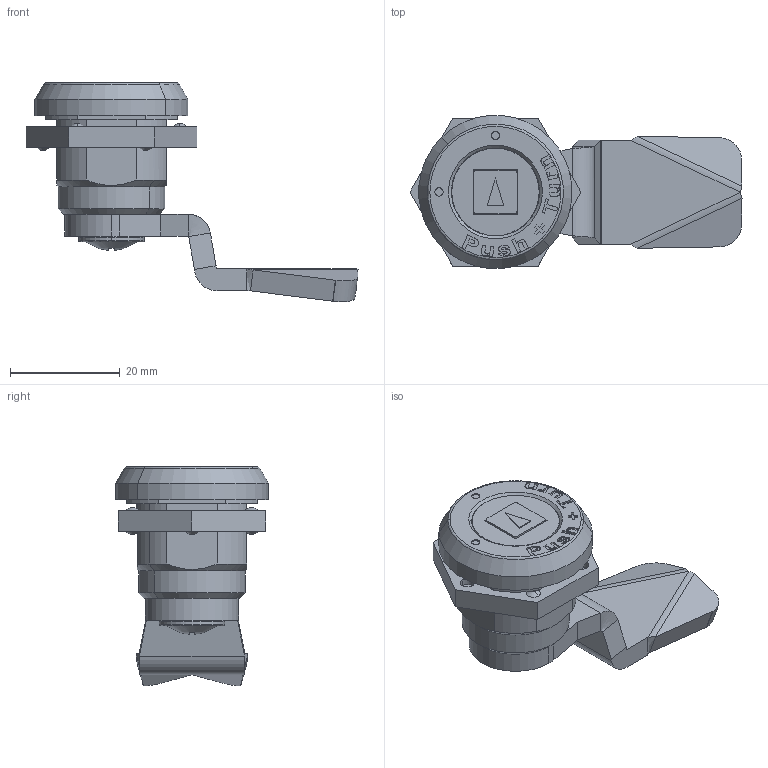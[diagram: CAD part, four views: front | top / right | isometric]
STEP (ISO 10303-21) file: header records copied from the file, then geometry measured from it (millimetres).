
FILE_DESCRIPTION (( 'STEP AP203' ), '1' );
FILE_NAME ('013.100.032.STEP', '2021-03-22T07:40:06', ( '' ), ( '' ), 'SwSTEP 2.0', 'SolidWorks 2018', '' );
FILE_SCHEMA (( 'CONFIG_CONTROL_DESIGN' ));
Length unit declared in the file: millimetre
Products named in the file (12): 1000-23; 1022-09; 1000-B87-03IA_ASM; ROH-NR_76; DIN1473_2X5; 1000-13_prt; 1000-111; 1000-485-03; 013.100.032; 1000-480; 1000-484-03; 2600-E02-25_EINGED
Assembly tree (11 placements, depth 3):
  013.100.032
    1000-B87-03IA_ASM
      1000-480
      1022-09
      DIN1473_2X5
      2600-E02-25_EINGED
      1000-485-03
      1000-484-03
    1000-23
    1000-111
    1000-13_prt
    ROH-NR_76
Bounding box: 60.58 x 27.89 x 40.08 mm (x, y, z)
Volume: 13341.8 mm3; surface area: 11906.9 mm2
Topology: 11 solids, 11 shells, 485 faces, 1224 edges, 793 vertices
Faces by surface type: plane 240, bspline 126, cylinder 94, cone 25
Entity records: 22308 total; most frequent: CARTESIAN_POINT 10090, ORIENTED_EDGE 2448, DIRECTION 1929, EDGE_CURVE 1224, VERTEX_POINT 793, VECTOR 707, LINE 707, AXIS2_PLACEMENT_3D 611
